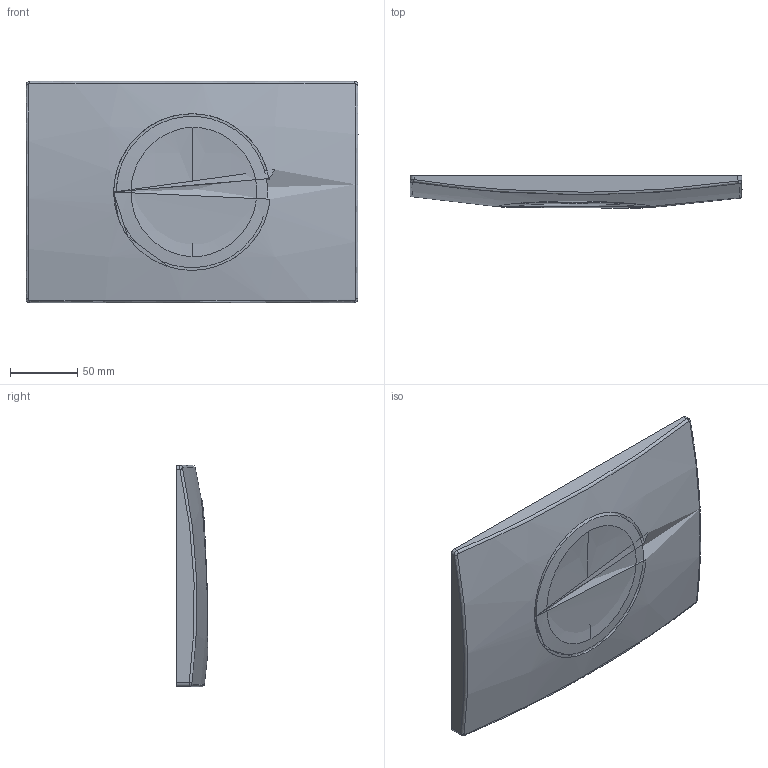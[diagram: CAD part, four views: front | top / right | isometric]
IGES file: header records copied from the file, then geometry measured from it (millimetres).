
Global section: file name: 115109; native system: Autodesk Inventor 2018; preprocessor: unknown; author: JANAN; date: 20211008.092622; units: millimetre
Bounding box: 246 x 23.68 x 164 mm (x, y, z)
Volume: 775573.9 mm3; surface area: 118081.2 mm2
Topology: 2 solids, 2 shells, 25 faces, 52 edges, 31 vertices
Faces by surface type: bspline 25
